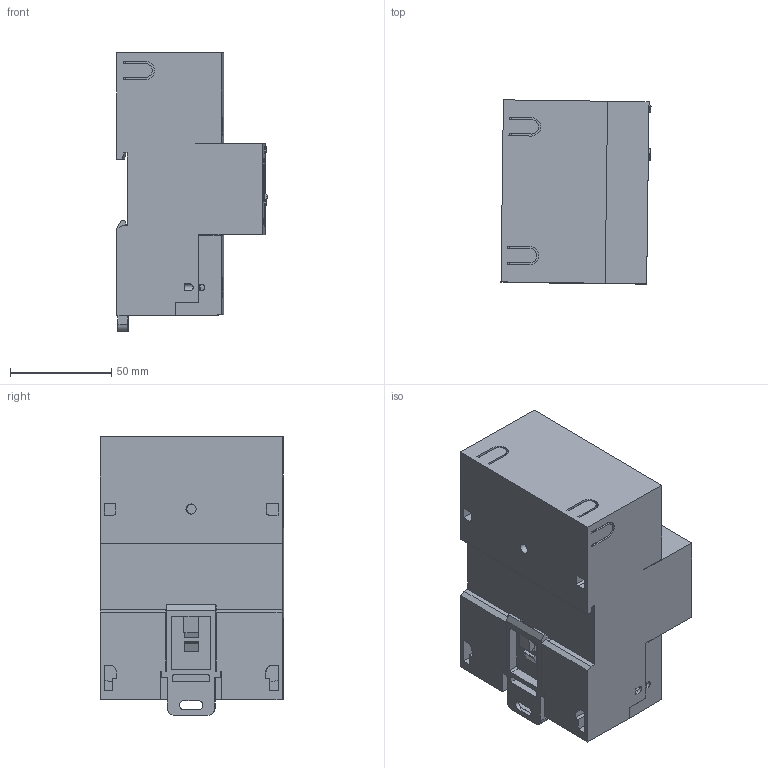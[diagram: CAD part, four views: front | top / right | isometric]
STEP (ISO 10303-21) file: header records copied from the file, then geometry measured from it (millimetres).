
FILE_DESCRIPTION(('STEP AP203'), '1');
FILE_NAME('ﾊﾂﾀﾍﾒ ST 1000-9-W2', '', ('UNSPECIFIED'), ('UNSPECIFIED'), 'ASCON STEP Converter 1.6', 'ASCON Math Kernel', '');
FILE_SCHEMA(('CONFIG_CONTROL_DESIGN'));
Length unit declared in the file: millimetre
Products named in the file (1): КВАНТ ST 1000-9-W2
Bounding box: 74.16 x 90.95 x 137.68 mm (x, y, z)
Volume: 146045.1 mm3; surface area: 154041.4 mm2
Topology: 7 solids, 7 shells, 1001 faces, 2867 edges, 1872 vertices
Faces by surface type: plane 723, cylinder 198, bspline 41, torus 15, cone 14, sphere 6, extrusion 4
Full cylindrical faces by diameter (mm): 2.2 x4, 2.5 x4, 3 x3, 3.2 x3, 4 x8, 5 x7, 7 x2, 9 x2, 10 x1, 14 x1
Entity records: 50566 total; most frequent: CARTESIAN_POINT 16405, ORIENTED_EDGE 5638, DIRECTION 5010, EDGE_CURVE 2819, VECTOR 2204, LINE 2200, VERTEX_POINT 1872, AXIS2_PLACEMENT_3D 1403
